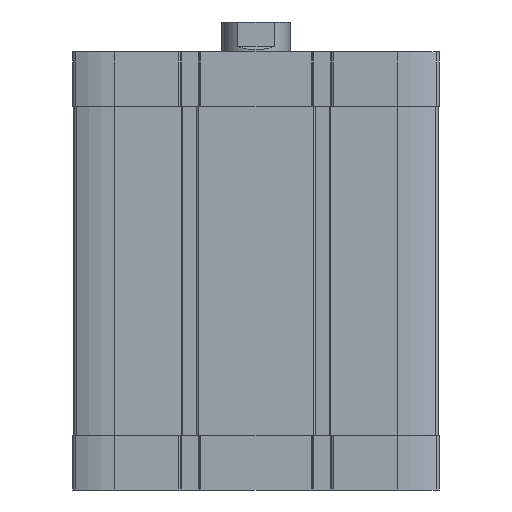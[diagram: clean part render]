
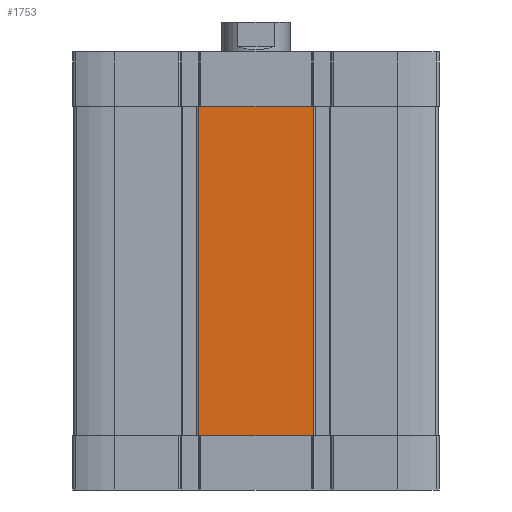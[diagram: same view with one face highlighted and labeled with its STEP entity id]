
A CAD part, front view. The second image highlights one B-rep face of the part: STEP entity #1753.
In plain terms, the highlighted planar face has unit normal (0, -1, 0).
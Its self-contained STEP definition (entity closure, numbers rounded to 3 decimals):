
#57 = ORIENTED_EDGE ( 'NONE', *, *, #16488, .F. ) ;
#206 = CARTESIAN_POINT ( 'NONE',  ( 21.3, -67., -141. ) ) ;
#361 = DIRECTION ( 'NONE',  ( 1., 0., 0. ) ) ;
#1014 = CARTESIAN_POINT ( 'NONE',  ( -21.3, -67., -141. ) ) ;
#1218 = DIRECTION ( 'NONE',  ( 1., 0., 0. ) ) ;
#1359 = VECTOR ( 'NONE', #16842, 1000. ) ;
#1407 = DIRECTION ( 'NONE',  ( 0., 0., 1. ) ) ;
#1464 = CARTESIAN_POINT ( 'NONE',  ( -20.687, -67., -20. ) ) ;
#1753 = ADVANCED_FACE ( 'NONE', ( #7763 ), #5059, .T. ) ;
#1968 = VECTOR ( 'NONE', #5125, 1000. ) ;
#2101 = ORIENTED_EDGE ( 'NONE', *, *, #14902, .F. ) ;
#2911 = VECTOR ( 'NONE', #1218, 1000. ) ;
#3120 = EDGE_CURVE ( 'NONE', #12768, #4099, #8621, .T. ) ;
#3294 = ORIENTED_EDGE ( 'NONE', *, *, #4611, .T. ) ;
#3754 = CARTESIAN_POINT ( 'NONE',  ( -21.3, -67., -20. ) ) ;
#4094 = EDGE_LOOP ( 'NONE', ( #2101, #3294, #5200, #12183, #9986, #11524, #57, #14562 ) ) ;
#4099 = VERTEX_POINT ( 'NONE', #15745 ) ;
#4611 = EDGE_CURVE ( 'NONE', #9957, #12768, #14685, .T. ) ;
#4642 = CARTESIAN_POINT ( 'NONE',  ( -20.687, -67., -141. ) ) ;
#4770 = CARTESIAN_POINT ( 'NONE',  ( -21.3, -67., -20. ) ) ;
#5059 = PLANE ( 'NONE',  #13677 ) ;
#5125 = DIRECTION ( 'NONE',  ( 1., 0., 0. ) ) ;
#5200 = ORIENTED_EDGE ( 'NONE', *, *, #3120, .T. ) ;
#5449 = VERTEX_POINT ( 'NONE', #4770 ) ;
#5474 = DIRECTION ( 'NONE',  ( 1., 0., 0. ) ) ;
#6604 = CARTESIAN_POINT ( 'NONE',  ( 20.687, -67., -20. ) ) ;
#6628 = CARTESIAN_POINT ( 'NONE',  ( -67., -67., -20. ) ) ;
#7026 = VERTEX_POINT ( 'NONE', #206 ) ;
#7321 = CARTESIAN_POINT ( 'NONE',  ( -21.3, -67., -141. ) ) ;
#7424 = EDGE_CURVE ( 'NONE', #11112, #11878, #15996, .T. ) ;
#7489 = EDGE_CURVE ( 'NONE', #7026, #11878, #14364, .T. ) ;
#7763 = FACE_OUTER_BOUND ( 'NONE', #4094, .T. ) ;
#7774 = EDGE_CURVE ( 'NONE', #4099, #7026, #17119, .T. ) ;
#7976 = VECTOR ( 'NONE', #5474, 1000. ) ;
#8096 = CARTESIAN_POINT ( 'NONE',  ( -67., -67., -141. ) ) ;
#8621 = LINE ( 'NONE', #7321, #15348 ) ;
#9171 = CARTESIAN_POINT ( 'NONE',  ( 21.3, -67., -20. ) ) ;
#9408 = LINE ( 'NONE', #9500, #15259 ) ;
#9500 = CARTESIAN_POINT ( 'NONE',  ( -67., -67., -20. ) ) ;
#9925 = DIRECTION ( 'NONE',  ( 1., 0., 0. ) ) ;
#9957 = VERTEX_POINT ( 'NONE', #15387 ) ;
#9986 = ORIENTED_EDGE ( 'NONE', *, *, #7489, .T. ) ;
#10080 = LINE ( 'NONE', #1014, #1359 ) ;
#10364 = DIRECTION ( 'NONE',  ( 0., 0., -1. ) ) ;
#11112 = VERTEX_POINT ( 'NONE', #6604 ) ;
#11181 = VECTOR ( 'NONE', #1407, 1000. ) ;
#11524 = ORIENTED_EDGE ( 'NONE', *, *, #7424, .F. ) ;
#11766 = CARTESIAN_POINT ( 'NONE',  ( 21.3, -67., -141. ) ) ;
#11878 = VERTEX_POINT ( 'NONE', #9171 ) ;
#12183 = ORIENTED_EDGE ( 'NONE', *, *, #7774, .T. ) ;
#12768 = VERTEX_POINT ( 'NONE', #4642 ) ;
#12823 = VECTOR ( 'NONE', #15742, 1000. ) ;
#13677 = AXIS2_PLACEMENT_3D ( 'NONE', #14101, #16716, #10364 ) ;
#14101 = CARTESIAN_POINT ( 'NONE',  ( -67., -67., -141. ) ) ;
#14364 = LINE ( 'NONE', #11766, #11181 ) ;
#14562 = ORIENTED_EDGE ( 'NONE', *, *, #15402, .F. ) ;
#14685 = LINE ( 'NONE', #8096, #7976 ) ;
#14902 = EDGE_CURVE ( 'NONE', #9957, #5449, #10080, .T. ) ;
#15259 = VECTOR ( 'NONE', #361, 1000. ) ;
#15348 = VECTOR ( 'NONE', #9925, 1000. ) ;
#15387 = CARTESIAN_POINT ( 'NONE',  ( -21.3, -67., -141. ) ) ;
#15402 = EDGE_CURVE ( 'NONE', #5449, #16987, #9408, .T. ) ;
#15647 = LINE ( 'NONE', #3754, #2911 ) ;
#15720 = CARTESIAN_POINT ( 'NONE',  ( -67., -67., -141. ) ) ;
#15742 = DIRECTION ( 'NONE',  ( 1., 0., 0. ) ) ;
#15745 = CARTESIAN_POINT ( 'NONE',  ( 20.687, -67., -141. ) ) ;
#15996 = LINE ( 'NONE', #6628, #12823 ) ;
#16488 = EDGE_CURVE ( 'NONE', #16987, #11112, #15647, .T. ) ;
#16716 = DIRECTION ( 'NONE',  ( 0., -1., 0. ) ) ;
#16842 = DIRECTION ( 'NONE',  ( 0., 0., 1. ) ) ;
#16987 = VERTEX_POINT ( 'NONE', #1464 ) ;
#17119 = LINE ( 'NONE', #15720, #1968 ) ;
